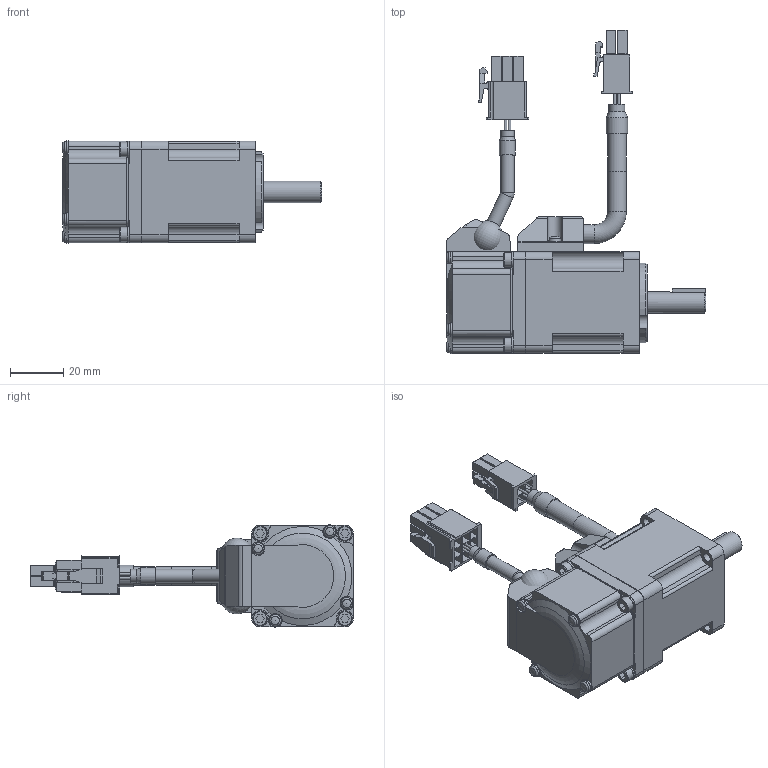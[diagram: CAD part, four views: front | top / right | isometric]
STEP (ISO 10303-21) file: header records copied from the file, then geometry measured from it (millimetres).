
FILE_DESCRIPTION(/* description */ ('STEP AP203'),/* implementation_level */ '2;1');
FILE_NAME(/* name */ 'MSMF5AZL1S2',/* time_stamp */ '2025-11-18T02:38:07+01:00',/* author */ ('License CC BY-ND 4.0'),/* organization */ ('CADENAS'),/* preprocessor_version */ 'ST-DEVELOPER v20',/* originating_system */ 'PARTsolutions',/* authorisation */ ' ');
FILE_SCHEMA (('CONFIG_CONTROL_DESIGN'));
Length unit declared in the file: millimetre
Products named in the file (8): MSMF5AZL1S2; MSMF5A2LNoWith key_b; Cable Motor Bottom 01_CM2_MSMF; Cable Motor Top 01_MSMF; Motor Connector_2; Cable Brake Top 01_CE02_MSMF; Cable Brake Top 01_CE01_MSMF; MHMF Connector 9 Pin_A6
Assembly tree (7 placements, depth 2):
  MSMF5AZL1S2
    MSMF5A2LNoWith key_b
    Cable Motor Bottom 01_CM2_MSMF
    Cable Motor Top 01_MSMF
    Motor Connector_2
    Cable Brake Top 01_CE02_MSMF
    Cable Brake Top 01_CE01_MSMF
    MHMF Connector 9 Pin_A6
Bounding box: 97.17 x 120.84 x 38.2 mm (x, y, z)
Volume: 114329.6 mm3; surface area: 30459.9 mm2
Topology: 7 solids, 7 shells, 745 faces, 1880 edges, 1226 vertices
Faces by surface type: plane 497, cylinder 194, cone 32, torus 16, sphere 6
Full cylindrical faces by diameter (mm): 1 x8, 1.82 x4, 2.459 x1, 2.6 x13, 3.4 x4, 4.95 x1, 5 x9, 5.1 x2, 5.5 x7, 5.997 x1, 6 x5, 7 x3, 7.999 x1, 8 x1, 8.9 x1, 10.5 x1, 17 x1, 18.72 x1
Entity records: 21613 total; most frequent: CARTESIAN_POINT 3804, DIRECTION 3675, ORIENTED_EDGE 3474, EDGE_CURVE 1737, LINE 1235, VECTOR 1235, AXIS2_PLACEMENT_3D 1220, VERTEX_POINT 1195
